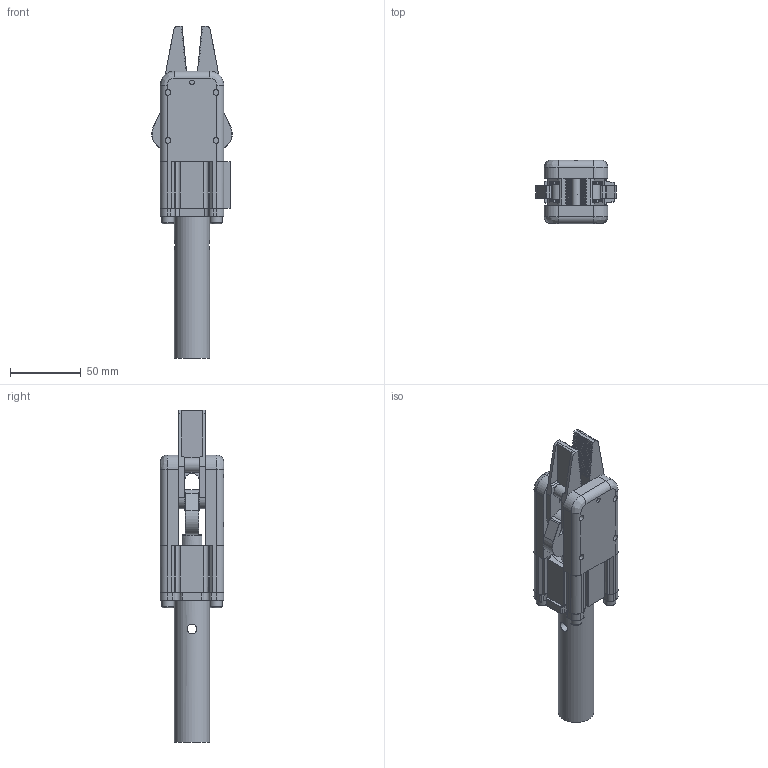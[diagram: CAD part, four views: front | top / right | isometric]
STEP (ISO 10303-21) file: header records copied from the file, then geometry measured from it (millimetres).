
FILE_DESCRIPTION(/* description */ (''),/* implementation_level */ '2;1');
FILE_NAME(/* name */ '8Y00278-GRP32A--25.stp',/* time_stamp */ '2023-02-22T10:00:50+08:00',/* author */ (''),/* organization */ (''),/* preprocessor_version */ 'ST-DEVELOPER v16',/* originating_system */ 'SIEMENS PLM Software NX 10.0',/* authorisation */ '');
FILE_SCHEMA (('AUTOMOTIVE_DESIGN { 1 0 10303 214 3 1 1 1 }'));
Length unit declared in the file: millimetre
Products named in the file (1): _model25
Bounding box: 56.95 x 45 x 234.95 mm (x, y, z)
Volume: 180982.6 mm3; surface area: 79616.1 mm2
Topology: 10 solids, 16 shells, 775 faces, 1903 edges, 1184 vertices
Faces by surface type: plane 517, cylinder 164, cone 85, torus 5, bspline 4
Full cylindrical faces by diameter (mm): 3.3 x1, 4 x1, 4.1 x1, 4.2 x8, 4.5 x1, 5 x4, 5.2 x4, 5.5 x4, 6 x9, 6.647 x1, 6.8 x1, 7 x3, 8 x6, 8.5 x4, 8.566 x2, 8.6 x1, 9 x8, 10 x6, 13 x1, 14 x1, 15 x2, 16 x2, 17 x12, 21 x1, 25 x1, 32 x1, 34 x2
Entity records: 27201 total; most frequent: CARTESIAN_POINT 3966, DIRECTION 3755, ORIENTED_EDGE 3406, EDGE_CURVE 1703, AXIS2_PLACEMENT_3D 1293, LINE 1169, VECTOR 1169, VERTEX_POINT 1156
